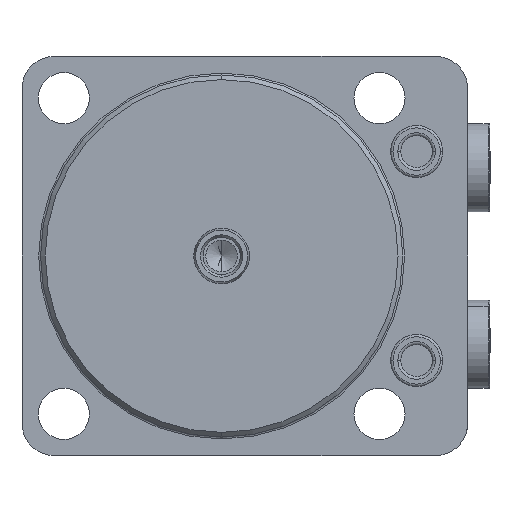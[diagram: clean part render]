
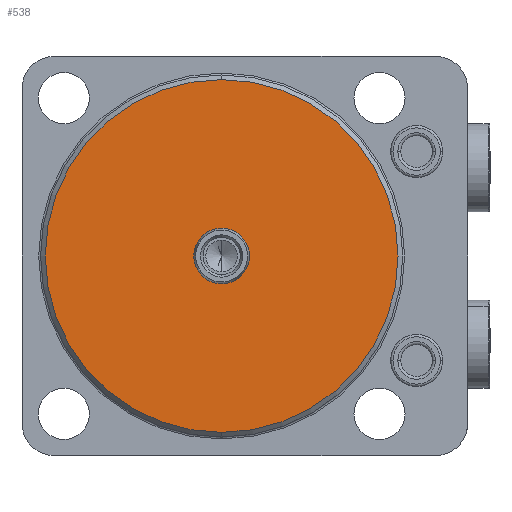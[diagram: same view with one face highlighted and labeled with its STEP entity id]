
A CAD part, front view. The second image highlights one B-rep face of the part: STEP entity #538.
In plain terms, the highlighted planar face has unit normal (0, -1, 0) as drawn and (0, 1, 0) by its records, which use the part's own axes.
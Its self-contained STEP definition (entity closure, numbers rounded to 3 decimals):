
#223=PLANE('',#3590);
#278=FACE_BOUND('',#971,.F.);
#279=FACE_BOUND('',#972,.F.);
#538=ADVANCED_FACE('',(#278,#279),#223,.T.);
#971=EDGE_LOOP('',(#2067,#2068));
#972=EDGE_LOOP('',(#2069,#2070));
#2067=ORIENTED_EDGE('',*,*,#2981,.T.);
#2068=ORIENTED_EDGE('',*,*,#2906,.T.);
#2069=ORIENTED_EDGE('',*,*,#2982,.T.);
#2070=ORIENTED_EDGE('',*,*,#2918,.T.);
#2516=VERTEX_POINT('',#5547);
#2517=VERTEX_POINT('',#5548);
#2528=VERTEX_POINT('',#5574);
#2529=VERTEX_POINT('',#5575);
#2906=EDGE_CURVE('',#2516,#2517,#3191,.T.);
#2918=EDGE_CURVE('',#2528,#2529,#3199,.T.);
#2981=EDGE_CURVE('',#2517,#2516,#3223,.T.);
#2982=EDGE_CURVE('',#2529,#2528,#3224,.T.);
#3191=CIRCLE('',#3539,6.);
#3199=CIRCLE('',#3550,38.);
#3223=CIRCLE('',#3588,6.);
#3224=CIRCLE('',#3589,38.);
#3539=AXIS2_PLACEMENT_3D('',#5546,#4378,#4379);
#3550=AXIS2_PLACEMENT_3D('',#5573,#4404,#4405);
#3588=AXIS2_PLACEMENT_3D('',#5706,#4514,#4515);
#3589=AXIS2_PLACEMENT_3D('',#5707,#4516,#4517);
#3590=AXIS2_PLACEMENT_3D('',#5708,#4518,#4519);
#4378=DIRECTION('',(0.,1.,0.));
#4379=DIRECTION('',(0.,0.,1.));
#4404=DIRECTION('',(0.,-1.,0.));
#4405=DIRECTION('',(0.,0.,1.));
#4514=DIRECTION('',(0.,1.,0.));
#4515=DIRECTION('',(0.,0.,1.));
#4516=DIRECTION('',(0.,-1.,0.));
#4517=DIRECTION('',(0.,0.,1.));
#4518=DIRECTION('',(0.,1.,0.));
#4519=DIRECTION('',(0.,0.,1.));
#5546=CARTESIAN_POINT('',(0.,0.,0.));
#5547=CARTESIAN_POINT('',(0.,0.,-6.));
#5548=CARTESIAN_POINT('',(0.,0.,6.));
#5573=CARTESIAN_POINT('',(0.,0.,0.));
#5574=CARTESIAN_POINT('',(0.,0.,-38.));
#5575=CARTESIAN_POINT('',(0.,0.,38.));
#5706=CARTESIAN_POINT('',(0.,0.,0.));
#5707=CARTESIAN_POINT('',(0.,0.,0.));
#5708=CARTESIAN_POINT('',(-43.,0.,43.));
